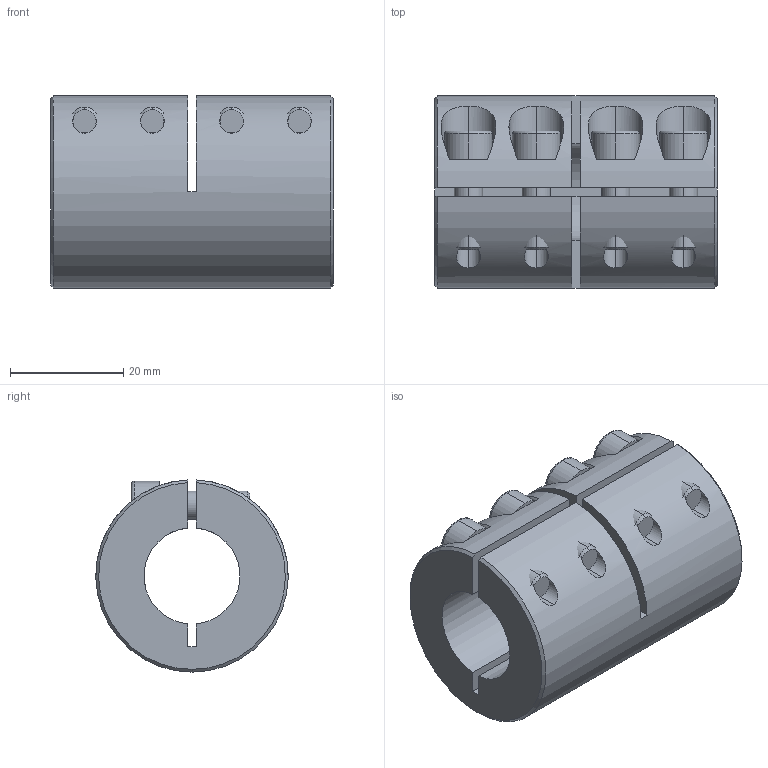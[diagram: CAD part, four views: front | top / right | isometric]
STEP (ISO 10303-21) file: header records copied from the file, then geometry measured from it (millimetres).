
FILE_DESCRIPTION (( 'STEP AP203' ), '1' );
FILE_NAME ('GRS-17-17.STEP', '2025-11-27T10:18:03', ( '' ), ( '' ), 'SwSTEP 2.0', 'SolidWorks 2021', '' );
FILE_SCHEMA (( 'CONFIG_CONTROL_DESIGN' ));
Length unit declared in the file: millimetre
Products named in the file (1): GRS-17-17
Bounding box: 50 x 34 x 33.98 mm (x, y, z)
Volume: 32146.1 mm3; surface area: 14031.2 mm2
Topology: 5 solids, 5 shells, 157 faces, 361 edges, 218 vertices
Faces by surface type: plane 79, cylinder 43, cone 19, torus 16
Entity records: 5402 total; most frequent: CARTESIAN_POINT 1713, DIRECTION 795, ORIENTED_EDGE 706, EDGE_CURVE 353, AXIS2_PLACEMENT_3D 304, VERTEX_POINT 218, LINE 187, VECTOR 187
